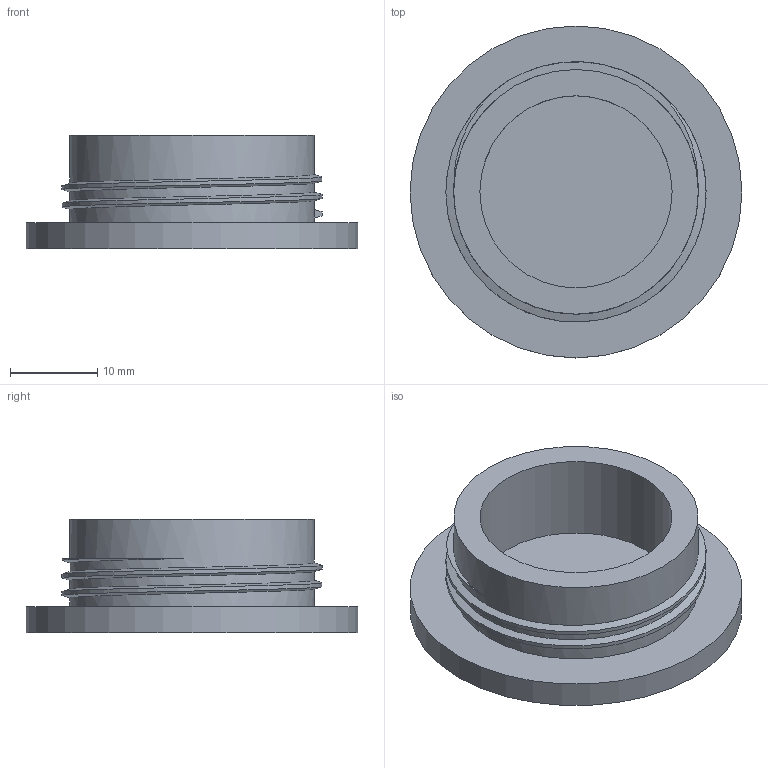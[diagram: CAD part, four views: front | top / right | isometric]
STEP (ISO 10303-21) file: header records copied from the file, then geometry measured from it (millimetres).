
FILE_DESCRIPTION(('Open CASCADE Model'),'2;1');
FILE_NAME('Open CASCADE Shape Model','2026-10-21T16:53:57',('Author'),( 'Open CASCADE'),'Open CASCADE STEP processor 7.9','Open CASCADE 7.9' ,'Unknown');
FILE_SCHEMA(('AUTOMOTIVE_DESIGN { 1 0 10303 214 1 1 1 1 }'));
Length unit declared in the file: millimetre
Products named in the file (1): Open CASCADE STEP translator 7.9 36
Bounding box: 38 x 38 x 13 mm (x, y, z)
Volume: 5886.4 mm3; surface area: 4512.2 mm2
Topology: 1 solids, 1 shells, 14 faces, 28 edges, 18 vertices
Faces by surface type: plane 6, cylinder 5, bspline 3
Full cylindrical faces by diameter (mm): 22 x1, 28 x3, 38 x1
Entity records: 2416 total; most frequent: CARTESIAN_POINT 1884, DIRECTION 77, ORIENTED_EDGE 56, PCURVE 56, DEFINITIONAL_REPRESENTATION 56, LINE 35, VECTOR 35, B_SPLINE_CURVE_WITH_KNOTS 35
